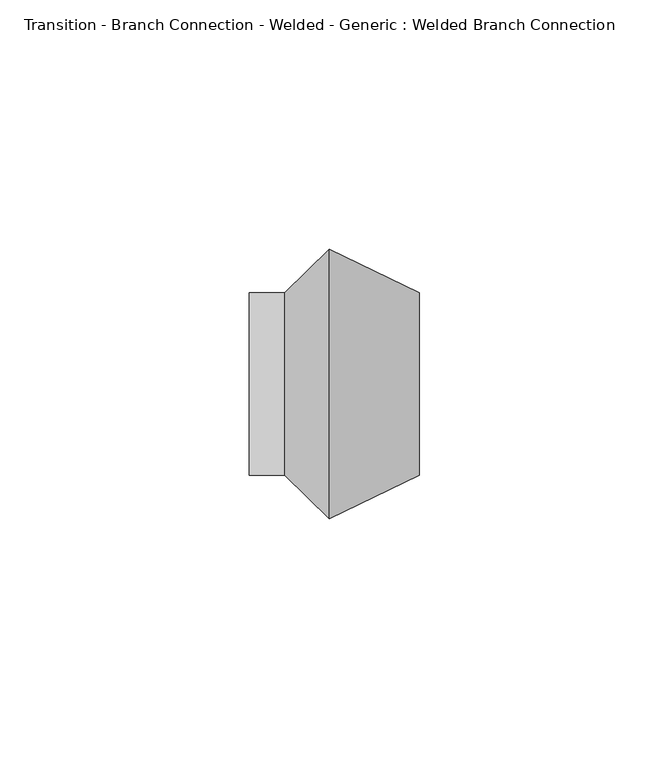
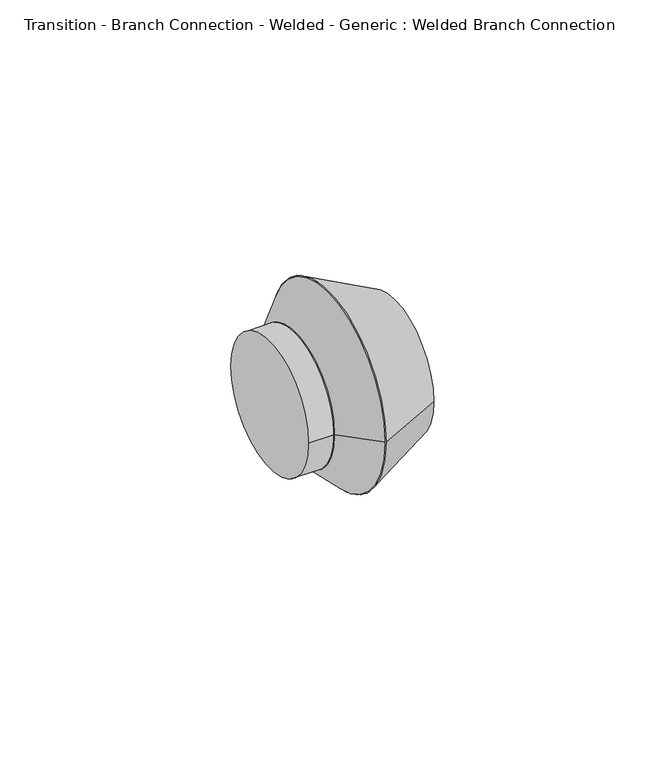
"""IFC4 building model written with IfcOpenShell, lengths in millimetres: pipe fitting geometry, Transition - Branch Connection - Welded - Generic : Welded Branch Connection."""

import ifcopenshell
import ifcopenshell.guid

model = None  # the IFC model being written
_history = None  # IfcOwnerHistory: only IFC2X3 demands one
_inside = {}  # id of a spatial element -> (the spatial element, [elements in it])
_under = {}  # id of a project, library or spatial element -> (it, [spatial elements below it])
_declared = {}  # id of a project -> (the project, [libraries it declares])
_typed = {}  # id of a type object -> (the type object, [elements of that type])
_made_of = {}  # id of a material, layer set ... -> (it, [elements and type objects made of it])


def new_model(schema):
    """Start an empty IFC model of exactly this schema.

    Asked for "IFC4X3", IfcOpenShell would pick the latest addendum, in which some entities
    have other attributes; the version numbers below select the first issue.
    IFC2X3 requires an IfcOwnerHistory on every rooted entity: one is made here for all.
    """
    global model, _history
    if schema == "IFC4X3":
        model = ifcopenshell.file(schema_version=(4, 3, 0, 0))
    else:
        model = ifcopenshell.file(schema=schema)
    _inside.clear()
    _under.clear()
    _declared.clear()
    _typed.clear()
    _made_of.clear()
    _history = None
    if model.schema == "IFC2X3":
        org = make("IfcOrganization", Name="unknown")
        user = make(
            "IfcPersonAndOrganization",
            ThePerson=make("IfcPerson", FamilyName="unknown"),
            TheOrganization=org,
        )
        app = make(
            "IfcApplication",
            ApplicationDeveloper=org,
            Version="unknown",
            ApplicationFullName="unknown",
            ApplicationIdentifier="unknown",
        )
        _history = make(
            "IfcOwnerHistory",
            OwningUser=user,
            OwningApplication=app,
            ChangeAction="ADDED",
            CreationDate=0,
        )
    return model


def make(cls, **values):
    """One entity of the class cls with the attributes given. An attribute that is None is left unset."""
    return model.create_entity(
        cls, **{name: value for name, value in values.items() if value is not None}
    )


def rooted(cls, **values):
    """An entity with a GlobalId (a new one), such as an element, a storey or a relation."""
    return make(cls, GlobalId=ifcopenshell.guid.new(), OwnerHistory=_history, **values)


def si_unit(unit_type, name, prefix=None):
    """IfcSIUnit, for example si_unit("LENGTHUNIT", "METRE", prefix="MILLI")."""
    return make("IfcSIUnit", UnitType=unit_type, Prefix=prefix, Name=name)


def assignment(units):
    """IfcUnitAssignment: the units of a project."""
    return None if units is None else make("IfcUnitAssignment", Units=units)


def point(xyz):
    """IfcCartesianPoint."""
    return None if xyz is None else make("IfcCartesianPoint", Coordinates=xyz)


def direction(xyz):
    """IfcDirection."""
    return None if xyz is None else make("IfcDirection", DirectionRatios=xyz)


def frame(location, z_axis=None, x_axis=None):
    """IfcAxis2Placement3D, a coordinate frame: its origin and axes. An axis left out is left unset."""
    return make(
        "IfcAxis2Placement3D",
        Location=point(location),
        Axis=direction(z_axis),
        RefDirection=direction(x_axis),
    )


def frame_2d(location, x_axis=None):
    """IfcAxis2Placement2D, a coordinate frame in the plane: its origin and x axis."""
    return make(
        "IfcAxis2Placement2D", Location=point(location), RefDirection=direction(x_axis)
    )


def origin():
    """The frame at (0, 0, 0) with its axes left unset."""
    return frame((0.0, 0.0, 0.0))


def origin_2d():
    """The frame at (0, 0) in the plane with its x axis left unset."""
    return frame_2d((0.0, 0.0))


def place(relative_to, where):
    """IfcLocalPlacement: puts the frame where relative to a parent placement (None: the world)."""
    return make(
        "IfcLocalPlacement", PlacementRelTo=relative_to, RelativePlacement=where
    )


def context(
    kind, dimensions, precision=None, world=None, true_north=None, identifier=None
):
    """IfcGeometricRepresentationContext, for example the 3D "Model" context."""
    return make(
        "IfcGeometricRepresentationContext",
        ContextIdentifier=identifier,
        ContextType=kind,
        CoordinateSpaceDimension=dimensions,
        Precision=precision,
        WorldCoordinateSystem=world,
        TrueNorth=true_north,
    )


def project(units=None, contexts=None):
    """IfcProject with its units and contexts."""
    return rooted(
        "IfcProject",
        Name="project",
        RepresentationContexts=contexts,
        UnitsInContext=assignment(units),
    )


def spatial(cls, under=None, at=None, **own):
    """A site, building, storey or space (cls), placed at a placement, below another one or the project."""
    s = rooted(cls, ObjectPlacement=at, **own)
    if under is not None:
        _under.setdefault(under.id(), (under, []))[1].append(s)
    return s


def polyline(points):
    """IfcPolyline through the points."""
    return make("IfcPolyline", Points=[point(p) for p in points])


def circle_curve(where, radius):
    """IfcCircle in the frame where."""
    return make("IfcCircle", Position=where, Radius=radius)


def trimmed(basis, trim1, trim2, sense, master):
    """IfcTrimmedCurve: the piece of a basis curve between two trims."""
    return make(
        "IfcTrimmedCurve",
        BasisCurve=basis,
        Trim1=trim1,
        Trim2=trim2,
        SenseAgreement=sense,
        MasterRepresentation=master,
    )


def segment(curve, same_sense, transition):
    """IfcCompositeCurveSegment."""
    return make(
        "IfcCompositeCurveSegment",
        Transition=transition,
        SameSense=same_sense,
        ParentCurve=curve,
    )


def composite_curve(segments, self_intersect=None):
    """IfcCompositeCurve: segments joined end to end."""
    return make("IfcCompositeCurve", Segments=segments, SelfIntersect=self_intersect)


def outline(outer, holes=None, kind="AREA"):
    """IfcArbitraryClosedProfileDef: a profile drawn as a closed curve; with holes, ...WithVoids."""
    if holes is None:
        return make("IfcArbitraryClosedProfileDef", ProfileType=kind, OuterCurve=outer)
    return make(
        "IfcArbitraryProfileDefWithVoids",
        ProfileType=kind,
        OuterCurve=outer,
        InnerCurves=holes,
    )


def extrude(swept, where, along, depth):
    """IfcExtrudedAreaSolid: the profile swept, set in the frame where, extruded along a direction by depth."""
    return make(
        "IfcExtrudedAreaSolid",
        SweptArea=swept,
        Position=where,
        ExtrudedDirection=direction(along),
        Depth=depth,
    )


def shape(context_of_items, identifier, shape_type, items):
    """IfcShapeRepresentation: the items that make up one representation, for example the "Body"."""
    return make(
        "IfcShapeRepresentation",
        ContextOfItems=context_of_items,
        RepresentationIdentifier=identifier,
        RepresentationType=shape_type,
        Items=items,
    )


def source(mapping_origin, context_of_items, identifier, shape_type, items):
    """IfcRepresentationMap: a shape defined once, which mapped items show again and again."""
    return make(
        "IfcRepresentationMap",
        MappingOrigin=mapping_origin,
        MappedRepresentation=shape(context_of_items, identifier, shape_type, items),
    )


def transform(
    local_origin,
    x_axis=None,
    y_axis=None,
    z_axis=None,
    scale=None,
    scale2=None,
    scale3=None,
    uniform=True,
):
    """IfcCartesianTransformationOperator3D, or its non-uniform kind. x_axis, y_axis, z_axis: its Axis1, 2, 3."""
    if uniform:
        return make(
            "IfcCartesianTransformationOperator3D",
            Axis1=direction(x_axis),
            Axis2=direction(y_axis),
            LocalOrigin=point(local_origin),
            Scale=scale,
            Axis3=direction(z_axis),
        )
    return make(
        "IfcCartesianTransformationOperator3DnonUniform",
        Axis1=direction(x_axis),
        Axis2=direction(y_axis),
        LocalOrigin=point(local_origin),
        Scale=scale,
        Axis3=direction(z_axis),
        Scale2=scale2,
        Scale3=scale3,
    )


def mapped(mapping_source, mapping_target):
    """IfcMappedItem: shows the shape of a source again, moved by a transform."""
    return make(
        "IfcMappedItem", MappingSource=mapping_source, MappingTarget=mapping_target
    )


def made_of(thing, what):
    """Note that an element or type object is made of a material, layer set ...; save() writes the relation."""
    if what is not None:
        _made_of.setdefault(what.id(), (what, []))[1].append(thing)
    return thing


def element(
    cls,
    number,
    at=None,
    inside=None,
    cuts=None,
    type_object=None,
    material=None,
    context=None,
    identifier="Body",
    shape_type=None,
    held_by="IfcProductDefinitionShape",
    body=None,
    shapes=None,
    **own,
):
    """One element of the class cls, such as IfcWall. Its Tag is "e" and its number.

    at: its placement. inside: the storey or other place that contains it. cuts: it is an
    opening in that element (IfcRelVoidsElement). A single representation is given by context,
    identifier, shape_type and body (its items); several are given by shapes. held_by: the class
    of the entity that holds the representations. save() writes the other relations.
    """
    e = rooted(cls, Tag="e%d" % number, ObjectPlacement=at, **own)
    if body is not None:
        shapes = [shape(context, identifier, shape_type, body)]
    if shapes is not None:
        e.Representation = make(held_by, Representations=shapes)
    if inside is not None:
        _inside.setdefault(inside.id(), (inside, []))[1].append(e)
    if cuts is not None:
        rooted(
            "IfcRelVoidsElement", RelatingBuildingElement=cuts, RelatedOpeningElement=e
        )
    if type_object is not None:
        _typed.setdefault(type_object.id(), (type_object, []))[1].append(e)
    return made_of(e, material)


def aggregate(whole, parts):
    """IfcRelAggregates: a whole, such as a stair, and the parts it consists of."""
    return rooted("IfcRelAggregates", RelatingObject=whole, RelatedObjects=parts)


def save(model, path):
    """Write the relations noted so far, then the file.

    IfcRelAggregates (storeys below a building ...), IfcRelContainedInSpatialStructure (elements
    in a storey), IfcRelDefinesByType, IfcRelAssociatesMaterial and IfcRelDeclares: one each for
    every whole, place, type object, material and project.
    """
    for whole, parts in _under.values():
        aggregate(whole, parts)
    for where, things in _inside.values():
        rooted(
            "IfcRelContainedInSpatialStructure",
            RelatedElements=things,
            RelatingStructure=where,
        )
    for kind, things in _typed.values():
        rooted("IfcRelDefinesByType", RelatedObjects=things, RelatingType=kind)
    for what, things in _made_of.values():
        rooted("IfcRelAssociatesMaterial", RelatedObjects=things, RelatingMaterial=what)
    for by, libraries in _declared.values():
        rooted("IfcRelDeclares", RelatingContext=by, RelatedDefinitions=libraries)
    model.write(path)


def plane_surface(at):
    """IfcPlane: the flat surface through the origin of the frame at, square to its z axis."""
    return make("IfcPlane", Position=at)


def revolved_surface(curve, axis_point, axis_direction):
    """IfcSurfaceOfRevolution: the curve turned about the line through axis_point along axis_direction."""
    return make(
        "IfcSurfaceOfRevolution",
        SweptCurve=make("IfcArbitraryOpenProfileDef", ProfileType="CURVE", Curve=curve),
        AxisPosition=make("IfcAxis1Placement", Location=point(axis_point), Axis=direction(axis_direction)),
    )


def advanced_brep(points, edges, surfaces, faces):
    """IfcAdvancedBrep: a solid bounded by faces that lie on surfaces and meet in shared edges.

    An edge is (start, end): straight between two places in points (the first is 0);
    or (start, end, curve); or (start, end, curve, False) where it runs against its curve.
    A face is (place in surfaces, loops), or (place, loops, False) where it looks against
    its surface's normal. A loop lists edges by number (the first is 1), with a minus sign
    where the edge is run from its end to its start. The first loop is the outer one.
    """
    corners = [point(p) for p in points]
    vertices = [make("IfcVertexPoint", VertexGeometry=c) for c in corners]
    made = []
    for start, end, *more in edges:
        made.append(
            make(
                "IfcEdgeCurve",
                EdgeStart=vertices[start],
                EdgeEnd=vertices[end],
                EdgeGeometry=more[0] if more else make("IfcPolyline", Points=[corners[start], corners[end]]),
                SameSense=more[1] if len(more) > 1 else True,
            )
        )
    hull = []
    for where, loops, *sense in faces:
        bounds = []
        for j, loop in enumerate(loops):
            ring = [make("IfcOrientedEdge", EdgeElement=made[abs(k) - 1], Orientation=k > 0) for k in loop]
            bounds.append(
                make(
                    "IfcFaceOuterBound" if j == 0 else "IfcFaceBound",
                    Bound=make("IfcEdgeLoop", EdgeList=ring),
                    Orientation=True,
                )
            )
        hull.append(make("IfcAdvancedFace", Bounds=bounds, FaceSurface=surfaces[where], SameSense=sense[0] if sense else True))
    return make("IfcAdvancedBrep", Outer=make("IfcClosedShell", CfsFaces=hull))


def transition_branch_connection_welded_generic_welded_branch_177adc7f(model_context):
    return source(origin(), model_context, "Body", "SolidModel", [
        advanced_brep(
        [(8.9958333, 26.9875, 0.0), (8.9958333, -26.9875, 0.0), (26.9875, 18.25625, 0.0), (26.9875, -18.25625, 0.0)],
        [
            (0, 1, circle_curve(frame((8.9958333, 0.0, 0.0), z_axis=(-1.0, 0.0, 0.0), x_axis=(0.0, -1.0, 0.0)), 26.9875)),
            (1, 0, circle_curve(frame((8.9958333, 0.0, 0.0), z_axis=(-1.0, 0.0, 0.0), x_axis=(0.0, 1.0, 0.0)), 26.9875)),
            (2, 3, circle_curve(frame((26.9875, 0.0, 0.0), z_axis=(1.0, 0.0, 0.0), x_axis=(0.0, 1.0, 0.0)), 18.25625)),
            (3, 2, circle_curve(frame((26.9875, 0.0, 0.0), z_axis=(1.0, 0.0, 0.0), x_axis=(0.0, -1.0, 0.0)), 18.25625)),
            (3, 1),
            (0, 2),
        ],
        [
            plane_surface(frame((8.9958333, 0.0, 0.0), z_axis=(-1.0, 0.0, 0.0), x_axis=(0.0, 0.0, -1.0))),
            plane_surface(frame((26.9875, 0.0, 0.0), z_axis=(1.0, 0.0, 0.0), x_axis=(0.0, 0.0, -1.0))),
            revolved_surface(polyline([(26.987499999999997, -18.25624999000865, 0.0), (8.995833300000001, -26.9875, 0.0)]), (64.6064394, 0.0, 0.0), (-1.0, 0.0, 0.0)),
            revolved_surface(polyline([(26.987499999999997, 18.25624999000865, 0.0), (8.995833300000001, 26.9875, 0.0)]), (64.6064394, 0.0, 0.0), (-1.0, 0.0, 0.0)),
        ],
        [
            (0, [[1, 2]]),
            (1, [[3, 4]]),
            (2, [[5, -1, 6, -4]]),
            (3, [[-6, -2, -5, -3]]),
        ],
    ),
        advanced_brep(
        [(8.9958333, 26.9875, 0.0), (8.9958333, -26.9875, 0.0), (0.0, 18.25625, 0.0), (0.0, -18.25625, 0.0)],
        [
            (0, 1, circle_curve(frame((8.9958333, 0.0, 0.0), z_axis=(1.0, 0.0, 0.0), x_axis=(0.0, -1.0, 0.0)), 26.9875)),
            (1, 0, circle_curve(frame((8.9958333, 0.0, 0.0), z_axis=(1.0, 0.0, 0.0), x_axis=(0.0, 1.0, 0.0)), 26.9875)),
            (2, 3, circle_curve(frame((0.0, 0.0, 0.0), z_axis=(-1.0, 0.0, 0.0), x_axis=(0.0, 1.0, 0.0)), 18.25625)),
            (3, 2, circle_curve(frame((0.0, 0.0, 0.0), z_axis=(-1.0, 0.0, 0.0), x_axis=(0.0, -1.0, 0.0)), 18.25625)),
            (2, 0),
            (1, 3),
        ],
        [
            plane_surface(frame((8.9958333, 0.0, 0.0), z_axis=(1.0, 0.0, 0.0), x_axis=(0.0, 0.0, -1.0))),
            plane_surface(frame((0.0, 0.0, 0.0), z_axis=(-1.0, 0.0, 0.0), x_axis=(0.0, 0.0, -1.0))),
            revolved_surface(polyline([(0.0, 18.25625002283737, 0.0), (8.995833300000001, 26.9875, 0.0)]), (-18.8094697, 0.0, 0.0), (1.0, 0.0, 0.0)),
            revolved_surface(polyline([(0.0, -18.25625002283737, 0.0), (8.995833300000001, -26.9875, 0.0)]), (-18.8094697, 0.0, 0.0), (1.0, 0.0, 0.0)),
        ],
        [
            (0, [[1, 2]]),
            (1, [[3, 4]]),
            (2, [[5, -2, 6, -3]]),
            (3, [[-6, -1, -5, -4]]),
        ],
    ),
        extrude(outline(composite_curve([segment(trimmed(circle_curve(origin_2d(), 18.25625), [point((18.25625, 0.0))], [point((-18.25625, 0.0))], False, "CARTESIAN"), True, "CONTINUOUS"), segment(trimmed(circle_curve(origin_2d(), 18.25625), [point((-18.25625, 0.0))], [point((18.25625, 0.0))], False, "CARTESIAN"), True, "CONTINUOUS")], self_intersect=False)), frame((-7.0639677, 0.0, 0.0), z_axis=(1.0, 0.0, 0.0), x_axis=(0.0, 1.0, 0.0)), (0.0, 0.0, 1.0), 7.0639677),
    ])


if __name__ == "__main__":
    model = new_model("IFC4")
    model_context = context("Model", 3, world=origin())
    ifc_project = project(units=[si_unit("LENGTHUNIT", "METRE", prefix="MILLI")], contexts=[model_context])
    site = spatial("IfcSite", under=ifc_project)
    building = spatial("IfcBuilding", under=site)
    placement = place(None, origin())
    transition_branch_connection_welded_generic_welded_branch_shape = transition_branch_connection_welded_generic_welded_branch_177adc7f(model_context)
    element("IfcPipeFitting", 1, ObjectType="Transition - Branch Connection - Welded - Generic : Welded Branch Connection", at=placement, inside=building, context=model_context, shape_type="MappedRepresentation", body=[
        mapped(transition_branch_connection_welded_generic_welded_branch_shape, transform((0.0, 0.0, 0.0), x_axis=(1.0, 0.0, 0.0), y_axis=(0.0, 1.0, 0.0), z_axis=(0.0, 0.0, 1.0))),
    ])
    save(model, "model.ifc")
